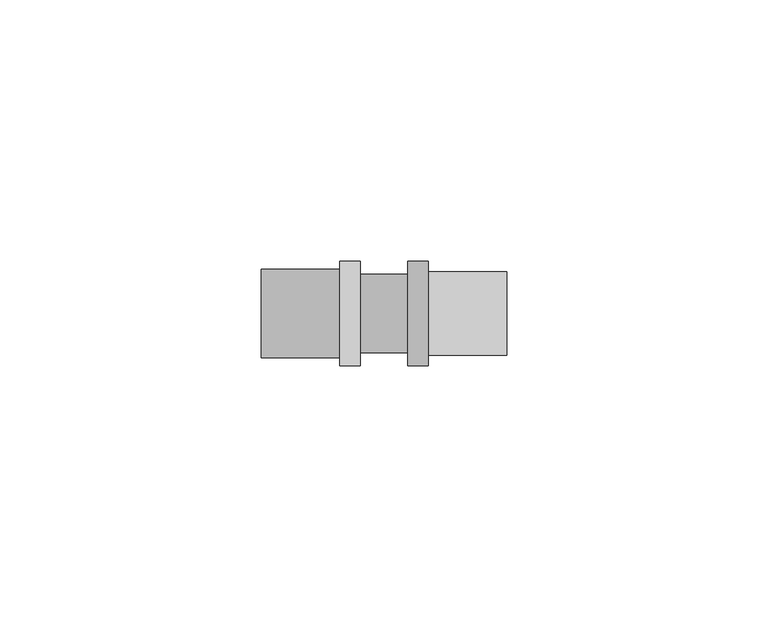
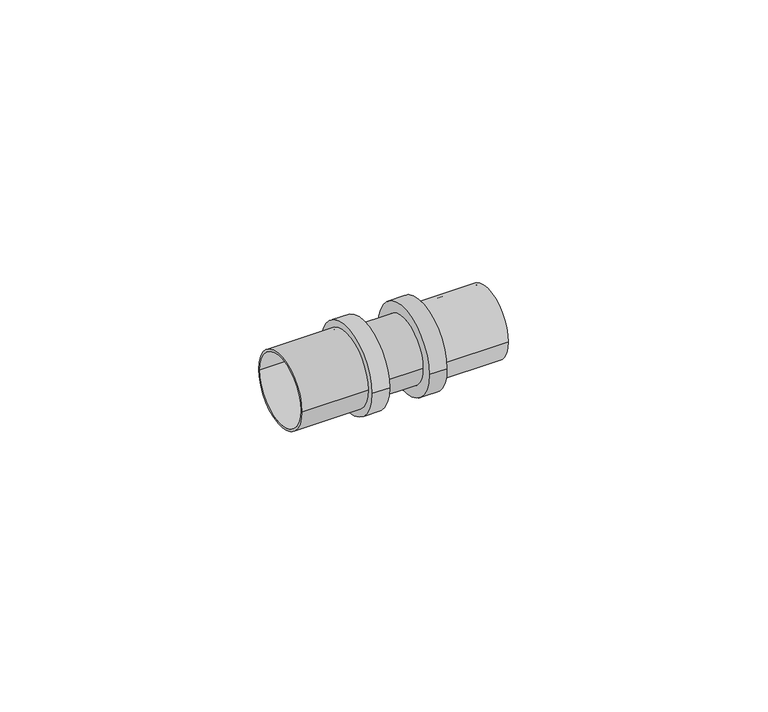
"""IFC4 building model written with IfcOpenShell, lengths in millimetres: pipe fitting geometry, БИР ПЕКС_НПР_Соединитель_Резьба_Наружная : Соединитель прямой с наружной резьбой."""

from ifc_helpers import new_model, si_unit, point, frame, origin, origin_2d, place, context, project, spatial, circle_curve, trimmed, segment, composite_curve, outline, extrude, source, transform, mapped, element, save


def pipe_fitting_991ed8dd(model_context):
    return source(origin(), model_context, "Body", "SweptSolid", [
        extrude(outline(composite_curve([segment(trimmed(circle_curve(origin_2d(), 8.5), [point((-8.5, 0.0))], [point((8.5, 0.0))], False, "CARTESIAN"), True, "CONTINUOUS"), segment(trimmed(circle_curve(origin_2d(), 8.5), [point((8.5, 0.0))], [point((-8.5, 0.0))], False, "CARTESIAN"), True, "CONTINUOUS")], self_intersect=False), holes=[composite_curve([segment(trimmed(circle_curve(origin_2d(), 8.0), [point((-8.0, 0.0))], [point((8.0, 0.0))], True, "CARTESIAN"), True, "CONTINUOUS"), segment(trimmed(circle_curve(origin_2d(), 8.0), [point((8.0, 0.0))], [point((-8.0, 0.0))], True, "CARTESIAN"), True, "CONTINUOUS")], self_intersect=False)]), frame((-21.375, 0.0, 0.0), z_axis=(1.0, 0.0, 0.0), x_axis=(0.0, 1.0, 0.0)), (0.0, 0.0, 1.0), 15.0),
        extrude(outline(composite_curve([segment(trimmed(circle_curve(origin_2d(), 8.0), [point((-8.0, 0.0))], [point((8.0, 0.0))], False, "CARTESIAN"), True, "CONTINUOUS"), segment(trimmed(circle_curve(origin_2d(), 8.0), [point((8.0, 0.0))], [point((-8.0, 0.0))], False, "CARTESIAN"), True, "CONTINUOUS")], self_intersect=False), holes=[composite_curve([segment(trimmed(circle_curve(origin_2d(), 7.5), [point((-7.5, 0.0))], [point((7.5, 0.0))], True, "CARTESIAN"), True, "CONTINUOUS"), segment(trimmed(circle_curve(origin_2d(), 7.5), [point((7.5, 0.0))], [point((-7.5, 0.0))], True, "CARTESIAN"), True, "CONTINUOUS")], self_intersect=False)]), frame((10.625, 0.0, 0.0), z_axis=(1.0, 0.0, 0.0), x_axis=(0.0, 1.0, 0.0)), (0.0, 0.0, 1.0), 15.0),
        extrude(outline(composite_curve([segment(trimmed(circle_curve(origin_2d(), 7.5), [point((-7.5, 0.0))], [point((7.5, 0.0))], False, "CARTESIAN"), True, "CONTINUOUS"), segment(trimmed(circle_curve(origin_2d(), 7.5), [point((7.5, 0.0))], [point((-7.5, 0.0))], False, "CARTESIAN"), True, "CONTINUOUS")], self_intersect=False)), frame((-2.375, 0.0, 0.0), z_axis=(1.0, 0.0, 0.0), x_axis=(0.0, 1.0, 0.0)), (0.0, 0.0, 1.0), 9.0),
        extrude(outline(composite_curve([segment(trimmed(circle_curve(origin_2d(), 10.0), [point((-10.0, 0.0))], [point((10.0, 0.0))], False, "CARTESIAN"), True, "CONTINUOUS"), segment(trimmed(circle_curve(origin_2d(), 10.0), [point((10.0, 0.0))], [point((-10.0, 0.0))], False, "CARTESIAN"), True, "CONTINUOUS")], self_intersect=False), holes=[composite_curve([segment(trimmed(circle_curve(origin_2d(), 7.5), [point((-7.5, 0.0))], [point((7.5, 0.0))], True, "CARTESIAN"), True, "CONTINUOUS"), segment(trimmed(circle_curve(origin_2d(), 7.5), [point((7.5, 0.0))], [point((-7.5, 0.0))], True, "CARTESIAN"), True, "CONTINUOUS")], self_intersect=False)]), frame((6.625, 0.0, 0.0), z_axis=(1.0, 0.0, 0.0), x_axis=(0.0, 1.0, 0.0)), (0.0, 0.0, 1.0), 4.0),
        extrude(outline(composite_curve([segment(trimmed(circle_curve(origin_2d(), 10.0), [point((-10.0, 0.0))], [point((10.0, 0.0))], False, "CARTESIAN"), True, "CONTINUOUS"), segment(trimmed(circle_curve(origin_2d(), 10.0), [point((10.0, 0.0))], [point((-10.0, 0.0))], False, "CARTESIAN"), True, "CONTINUOUS")], self_intersect=False), holes=[composite_curve([segment(trimmed(circle_curve(origin_2d(), 7.5), [point((-7.5, 0.0))], [point((7.5, 0.0))], True, "CARTESIAN"), True, "CONTINUOUS"), segment(trimmed(circle_curve(origin_2d(), 7.5), [point((7.5, 0.0))], [point((-7.5, 0.0))], True, "CARTESIAN"), True, "CONTINUOUS")], self_intersect=False)]), frame((-6.375, 0.0, 0.0), z_axis=(1.0, 0.0, 0.0), x_axis=(0.0, 1.0, 0.0)), (0.0, 0.0, 1.0), 4.0),
    ])


if __name__ == "__main__":
    model = new_model("IFC4")
    model_context = context("Model", 3, world=origin())
    ifc_project = project(units=[si_unit("LENGTHUNIT", "METRE", prefix="MILLI")], contexts=[model_context])
    site = spatial("IfcSite", under=ifc_project)
    building = spatial("IfcBuilding", under=site)
    placement = place(None, origin())
    pipe_fitting_shape = pipe_fitting_991ed8dd(model_context)
    element("IfcPipeFitting", 1, ObjectType="БИР ПЕКС_НПР_Соединитель_Резьба_Наружная : Соединитель прямой с наружной резьбой", at=placement, inside=building, context=model_context, shape_type="MappedRepresentation", body=[
        mapped(pipe_fitting_shape, transform((0.0, 0.0, 0.0), x_axis=(1.0, 0.0, 0.0), y_axis=(0.0, 1.0, 0.0), z_axis=(0.0, 0.0, 1.0))),
    ])
    save(model, "model.ifc")
